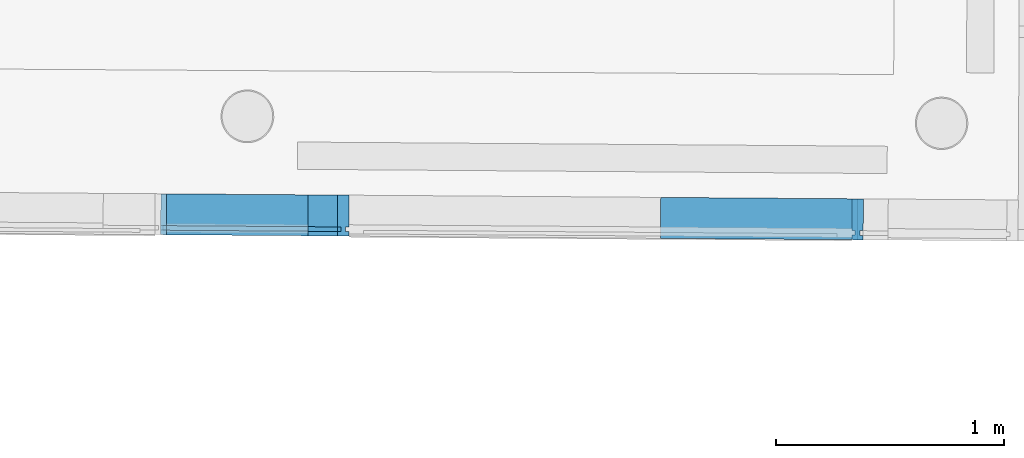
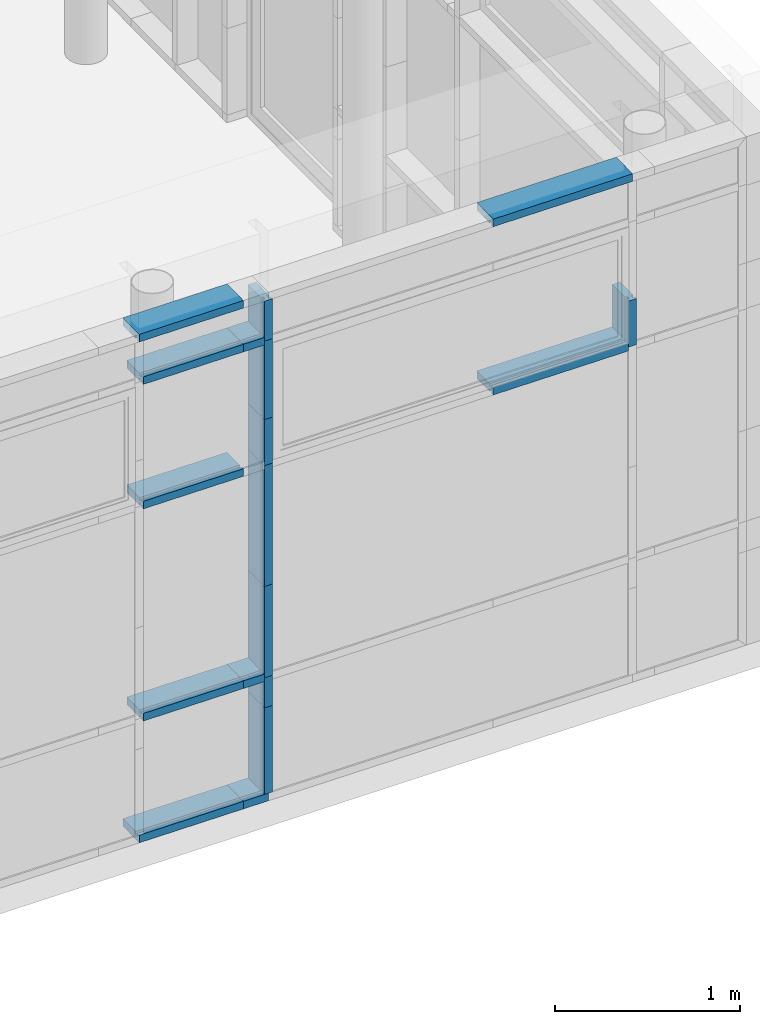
# One storey, part 174 of 196: 18 building element parts, 1 element without a shape of its own.
"""IFC2X3 building model written with IfcOpenShell, lengths in metres."""

from ifc_helpers import new_model, entity, si_unit, converted_unit, derived_unit, money_unit, direction, frame, origin_with_axes, place, context, subcontext, project, spatial, faceted_brep, material, type_object, element, aggregate, save


model = new_model("IFC2X3")

# Units and contexts
model_context = context("Model", 3, precision=1e-05, world=origin_with_axes(), true_north=direction((0.0, 1.0)))
body_context = subcontext(model_context, "Body", "Model", "MODEL_VIEW")
ifc_project = project(units=[si_unit("LENGTHUNIT", "METRE"), si_unit("AREAUNIT", "SQUARE_METRE"), si_unit("VOLUMEUNIT", "CUBIC_METRE"), converted_unit("PLANEANGLEUNIT", "DEGREE", entity("IfcPlaneAngleMeasure", 0.0174532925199), si_unit("PLANEANGLEUNIT", "RADIAN"), dimensions=[0, 0, 0, 0, 0, 0, 0]), money_unit("EUR"), converted_unit("TIMEUNIT", "Year", entity("IfcTimeMeasure", 31556926.0), si_unit("TIMEUNIT", "SECOND"), dimensions=[0, 0, 1, 0, 0, 0, 0]), si_unit("MASSUNIT", "GRAM", prefix="KILO"), si_unit("THERMODYNAMICTEMPERATUREUNIT", "DEGREE_CELSIUS"), si_unit("LUMINOUSINTENSITYUNIT", "LUMEN"), si_unit("ENERGYUNIT", "JOULE", prefix="MEGA"), derived_unit("THERMALCONDUCTANCEUNIT", [(si_unit("POWERUNIT", "WATT"), 1), (si_unit("LENGTHUNIT", "METRE"), -1), (si_unit("THERMODYNAMICTEMPERATUREUNIT", "KELVIN"), -1)]), derived_unit("SPECIFICHEATCAPACITYUNIT", [(si_unit("ENERGYUNIT", "JOULE"), 1), (si_unit("MASSUNIT", "GRAM", prefix="KILO"), -1), (si_unit("THERMODYNAMICTEMPERATUREUNIT", "KELVIN"), -1)]), derived_unit("MASSDENSITYUNIT", [(si_unit("MASSUNIT", "GRAM", prefix="KILO"), 1), (si_unit("VOLUMEUNIT", "CUBIC_METRE"), -1)])], contexts=[model_context])

# Site, building, storey
site_placement = place(None, origin_with_axes())
site = spatial("IfcSite", under=ifc_project, at=site_placement, Name="Gelände", CompositionType="ELEMENT")
building_placement = place(site_placement, origin_with_axes())
building = spatial("IfcBuilding", under=site, at=building_placement, Name="Gebäude", CompositionType="ELEMENT")
storey_placement = place(building_placement, frame((0.0, 0.0, -3.0), z_axis=(0.0, 0.0, 1.0), x_axis=(1.0, 0.0, 0.0)))
storey = spatial("IfcBuildingStorey", under=building, at=storey_placement, Name="KELLERGESCHOSS", CompositionType="ELEMENT", Elevation=-3.0)

# Proxy, building element parts
building_element_proxy_type = type_object("IfcBuildingElementProxyType", Name="Fassadentyp", PredefinedType="NOTDEFINED")
proxy_placement = place(storey_placement, frame((2.54090824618, 35.7894672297, 0.610000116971), z_axis=(0.0, 0.0, 1.0), x_axis=(1.0, 0.0, 0.0)))
proxy = element("IfcBuildingElementProxy", 1, at=proxy_placement, inside=storey, type_object=building_element_proxy_type, Name="Fassade-002")
ifc_material = material(Name="53_Metall, Aluminium")
building_element_part_1_placement = place(proxy_placement, origin_with_axes())
building_element_part_1 = element("IfcBuildingElementPart", 2, at=building_element_part_1_placement, material=ifc_material, Name="53_Metall, Aluminium", context=body_context, shape_type="Brep", body=[
    faceted_brep([(5.76495682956, -0.0317734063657, 2.51999988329), (5.77995643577, -0.0318820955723, 2.51999988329), (5.78097086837, 0.108114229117, 2.51999988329), (5.73097218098, 0.108476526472, 2.51999988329), (5.72995774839, -0.0315197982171, 2.51999988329), (5.7449573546, -0.0316284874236, 2.51999988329), (5.74481243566, -0.0516279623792, 2.51999988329), (5.72981282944, -0.0515192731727, 2.51999988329), (5.7296679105, -0.0715187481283, 2.51999988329), (5.77966659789, -0.0718810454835, 2.51999988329), (5.77981151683, -0.0518815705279, 2.51999988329), (5.76481191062, -0.0517728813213, 2.51999988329), (5.76495682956, -0.0317734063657, 2.21648768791), (5.77995643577, -0.0318820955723, 2.21648768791), (5.78097086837, 0.108114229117, 2.21648768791), (5.73097218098, 0.108476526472, 2.21648768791), (5.72995774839, -0.0315197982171, 2.21648768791), (5.7449573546, -0.0316284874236, 2.21648768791), (5.74481243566, -0.0516279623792, 2.21648768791), (5.72981282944, -0.0515192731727, 2.21648768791), (5.7296679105, -0.0715187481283, 2.21648768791), (5.77966659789, -0.0718810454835, 2.21648768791), (5.77981151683, -0.0518815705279, 2.21648768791), (5.76481191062, -0.0517728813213, 2.21648768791)], [[[0, 1, 2, 3, 4, 5, 6, 7, 8, 9, 10, 11]], [[1, 0, 12, 13]], [[1, 13, 14, 2]], [[3, 2, 14, 15]], [[4, 3, 15, 16]], [[4, 16, 17, 5]], [[5, 17, 18, 6]], [[7, 6, 18, 19]], [[19, 20, 8, 7]], [[9, 8, 20, 21]], [[22, 10, 9, 21]], [[11, 10, 22, 23]], [[0, 11, 23, 12]], [[23, 22, 21, 20, 19, 18, 17, 16, 15, 14, 13, 12]]]),
])
building_element_part_2_placement = place(proxy_placement, origin_with_axes())
building_element_part_2 = element("IfcBuildingElementPart", 3, at=building_element_part_2_placement, material=ifc_material, Name="53_Metall, Aluminium", context=body_context, shape_type="Brep", body=[
    faceted_brep([(5.75495709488, -0.031700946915, 3.31499994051), (5.75495709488, -0.031700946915, 3.29999994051), (5.75597152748, 0.108295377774, 3.29999994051), (5.75597152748, 0.108295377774, 3.34999994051), (5.754667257, -0.0716998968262, 3.34999994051), (5.754667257, -0.0716998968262, 3.29999994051), (5.75481217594, -0.0517004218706, 3.29999994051), (5.75481217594, -0.0517004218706, 3.31499994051), (4.88922474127, -0.0254277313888, 3.31499994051), (4.88922474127, -0.0254277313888, 3.29999994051), (4.89023917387, 0.114568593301, 3.29999994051), (4.89023917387, 0.114568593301, 3.34999994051), (4.88893490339, -0.0654266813, 3.34999994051), (4.88893490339, -0.0654266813, 3.29999994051), (4.88907982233, -0.0454272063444, 3.29999994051), (4.88907982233, -0.0454272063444, 3.31499994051)], [[[0, 1, 2, 3, 4, 5, 6, 7]], [[0, 8, 9, 1]], [[9, 10, 2, 1]], [[10, 11, 3, 2]], [[11, 12, 4, 3]], [[12, 13, 5, 4]], [[6, 5, 13, 14]], [[14, 15, 7, 6]], [[7, 15, 8, 0]], [[8, 15, 14, 13, 12, 11, 10, 9]]]),
])
building_element_part_3_placement = place(proxy_placement, origin_with_axes())
building_element_part_3 = element("IfcBuildingElementPart", 4, at=building_element_part_3_placement, material=ifc_material, Name="53_Metall, Aluminium", context=body_context, shape_type="Brep", body=[
    faceted_brep([(3.50453153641, -0.0153940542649, 2.51999988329), (3.51953114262, -0.0155027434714, 2.51999988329), (3.52054557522, 0.124493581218, 2.51999988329), (3.47054688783, 0.124855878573, 2.51999988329), (3.46953245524, -0.0151404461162, 2.51999988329), (3.48453206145, -0.0152491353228, 2.51999988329), (3.48438714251, -0.0352486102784, 2.51999988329), (3.46938753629, -0.0351399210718, 2.51999988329), (3.46924261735, -0.0551393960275, 2.51999988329), (3.51924130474, -0.0555016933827, 2.51999988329), (3.51938622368, -0.035502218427, 2.51999988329), (3.50438661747, -0.0353935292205, 2.51999988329), (3.50453153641, -0.0153940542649, 2.21648768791), (3.51953114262, -0.0155027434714, 2.21648768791), (3.52054557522, 0.124493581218, 2.21648768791), (3.47054688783, 0.124855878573, 2.21648768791), (3.46953245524, -0.0151404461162, 2.21648768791), (3.48453206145, -0.0152491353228, 2.21648768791), (3.48438714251, -0.0352486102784, 2.21648768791), (3.46938753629, -0.0351399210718, 2.21648768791), (3.46924261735, -0.0551393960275, 2.21648768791), (3.51924130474, -0.0555016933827, 2.21648768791), (3.51938622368, -0.035502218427, 2.21648768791), (3.50438661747, -0.0353935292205, 2.21648768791)], [[[0, 1, 2, 3, 4, 5, 6, 7, 8, 9, 10, 11]], [[1, 0, 12, 13]], [[1, 13, 14, 2]], [[3, 2, 14, 15]], [[4, 3, 15, 16]], [[4, 16, 17, 5]], [[5, 17, 18, 6]], [[7, 6, 18, 19]], [[19, 20, 8, 7]], [[9, 8, 20, 21]], [[22, 10, 9, 21]], [[11, 10, 22, 23]], [[0, 11, 23, 12]], [[23, 22, 21, 20, 19, 18, 17, 16, 15, 14, 13, 12]]]),
])
building_element_part_4_placement = place(proxy_placement, origin_with_axes())
building_element_part_4 = element("IfcBuildingElementPart", 5, at=building_element_part_4_placement, material=ifc_material, Name="53_Metall, Aluminium", context=body_context, shape_type="Brep", body=[
    faceted_brep([(3.50453153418, -0.0153940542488, 2.21648768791), (3.5195311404, -0.0155027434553, 2.21648768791), (3.520545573, 0.124493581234, 2.21648768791), (3.47054688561, 0.124855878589, 2.21648768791), (3.46953245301, -0.0151404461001, 2.21648768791), (3.48453205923, -0.0152491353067, 2.21648768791), (3.48438714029, -0.0352486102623, 2.21648768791), (3.46938753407, -0.0351399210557, 2.21648768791), (3.46924261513, -0.0551393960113, 2.21648768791), (3.51924130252, -0.0555016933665, 2.21648768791), (3.51938622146, -0.0355022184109, 2.21648768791), (3.50438661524, -0.0353935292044, 2.21648768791), (3.50453153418, -0.0153940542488, 1.41999988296), (3.5195311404, -0.0155027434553, 1.41999988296), (3.520545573, 0.124493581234, 1.41999988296), (3.47054688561, 0.124855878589, 1.41999988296), (3.46953245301, -0.0151404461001, 1.41999988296), (3.48453205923, -0.0152491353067, 1.41999988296), (3.48438714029, -0.0352486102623, 1.41999988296), (3.46938753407, -0.0351399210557, 1.41999988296), (3.46924261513, -0.0551393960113, 1.41999988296), (3.51924130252, -0.0555016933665, 1.41999988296), (3.51938622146, -0.0355022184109, 1.41999988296), (3.50438661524, -0.0353935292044, 1.41999988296)], [[[0, 1, 2, 3, 4, 5, 6, 7, 8, 9, 10, 11]], [[1, 0, 12, 13]], [[1, 13, 14, 2]], [[3, 2, 14, 15]], [[4, 3, 15, 16]], [[4, 16, 17, 5]], [[5, 17, 18, 6]], [[7, 6, 18, 19]], [[19, 20, 8, 7]], [[9, 8, 20, 21]], [[22, 10, 9, 21]], [[11, 10, 22, 23]], [[0, 11, 23, 12]], [[23, 22, 21, 20, 19, 18, 17, 16, 15, 14, 13, 12]]]),
])
building_element_part_5_placement = place(proxy_placement, origin_with_axes())
building_element_part_5 = element("IfcBuildingElementPart", 6, at=building_element_part_5_placement, material=ifc_material, Name="53_Metall, Aluminium", context=body_context, shape_type="Brep", body=[
    faceted_brep([(3.33926543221, -0.0141965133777, 2.20648768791), (3.33926543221, -0.0141965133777, 2.19148768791), (3.34027986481, 0.125799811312, 2.19148768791), (3.34027986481, 0.125799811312, 2.24148768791), (3.33926543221, -0.0141965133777, 2.24148768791), (3.33926543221, -0.0141965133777, 2.22648768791), (3.33912051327, -0.0341959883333, 2.22648768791), (3.33912051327, -0.0341959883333, 2.24148768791), (3.33897559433, -0.0541954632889, 2.24148768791), (3.33897559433, -0.0541954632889, 2.19148768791), (3.33912051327, -0.0341959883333, 2.19148768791), (3.33912051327, -0.0341959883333, 2.20648768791), (2.71722601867, -0.0096891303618, 2.20648768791), (2.71722601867, -0.0096891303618, 2.19148768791), (2.71824045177, 0.130307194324, 2.19148768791), (2.71824045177, 0.130307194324, 2.24148768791), (2.71722601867, -0.0096891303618, 2.24148768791), (2.71722601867, -0.0096891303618, 2.22648768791), (2.71708109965, -0.0296886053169, 2.22648768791), (2.71708109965, -0.0296886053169, 2.24148768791), (2.71693618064, -0.049688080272, 2.24148768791), (2.71693618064, -0.049688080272, 2.19148768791), (2.71708109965, -0.0296886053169, 2.19148768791), (2.71708109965, -0.0296886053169, 2.20648768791)], [[[0, 1, 2, 3, 4, 5, 6, 7, 8, 9, 10, 11]], [[1, 0, 12, 13]], [[1, 13, 14, 2]], [[2, 14, 15, 3]], [[4, 3, 15, 16]], [[4, 16, 17, 5]], [[5, 17, 18, 6]], [[7, 6, 18, 19]], [[19, 20, 8, 7]], [[8, 20, 21, 9]], [[22, 10, 9, 21]], [[11, 10, 22, 23]], [[0, 11, 23, 12]], [[23, 22, 21, 20, 19, 18, 17, 16, 15, 14, 13, 12]]]),
])
building_element_part_6_placement = place(proxy_placement, origin_with_axes())
building_element_part_6 = element("IfcBuildingElementPart", 7, at=building_element_part_6_placement, material=ifc_material, Name="53_Metall, Aluminium", context=body_context, shape_type="Brep", body=[
    faceted_brep([(5.72995774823, -0.0315197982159, 2.20648767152), (5.72995774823, -0.0315197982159, 2.19148767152), (5.73097217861, 0.108476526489, 2.19148767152), (5.73097217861, 0.108476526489, 2.24148767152), (5.72995774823, -0.0315197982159, 2.24148767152), (5.72995774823, -0.0315197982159, 2.22648767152), (5.7298128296, -0.0515192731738, 2.22648767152), (5.7298128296, -0.0515192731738, 2.24148767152), (5.72966791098, -0.0715187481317, 2.24148767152), (5.72966791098, -0.0715187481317, 2.19148767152), (5.7298128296, -0.0515192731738, 2.19148767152), (5.7298128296, -0.0515192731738, 2.20648767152), (4.88922474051, -0.0254277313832, 2.20648767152), (4.88922474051, -0.0254277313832, 2.19148767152), (4.8902391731, 0.114568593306, 2.19148767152), (4.8902391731, 0.114568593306, 2.24148767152), (4.88922474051, -0.0254277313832, 2.24148767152), (4.88922474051, -0.0254277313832, 2.22648767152), (4.88907982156, -0.0454272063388, 2.22648767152), (4.88907982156, -0.0454272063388, 2.24148767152), (4.88893490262, -0.0654266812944, 2.24148767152), (4.88893490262, -0.0654266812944, 2.19148767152), (4.88907982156, -0.0454272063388, 2.19148767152), (4.88907982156, -0.0454272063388, 2.20648767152)], [[[0, 1, 2, 3, 4, 5, 6, 7, 8, 9, 10, 11]], [[1, 0, 12, 13]], [[1, 13, 14, 2]], [[3, 2, 14, 15]], [[4, 3, 15, 16]], [[4, 16, 17, 5]], [[5, 17, 18, 6]], [[7, 6, 18, 19]], [[19, 20, 8, 7]], [[9, 8, 20, 21]], [[22, 10, 9, 21]], [[11, 10, 22, 23]], [[0, 11, 23, 12]], [[23, 22, 21, 20, 19, 18, 17, 16, 15, 14, 13, 12]]]),
])
building_element_part_7_placement = place(proxy_placement, origin_with_axes())
building_element_part_7 = element("IfcBuildingElementPart", 8, at=building_element_part_7_placement, material=ifc_material, Name="53_Metall, Aluminium", context=body_context, shape_type="Brep", body=[
    faceted_brep([(3.50453153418, -0.0153940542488, 1.4199998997), (3.5195311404, -0.0155027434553, 1.4199998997), (3.520545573, 0.124493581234, 1.4199998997), (3.47054688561, 0.124855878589, 1.4199998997), (3.46953245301, -0.0151404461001, 1.4199998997), (3.48453205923, -0.0152491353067, 1.4199998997), (3.48438714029, -0.0352486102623, 1.4199998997), (3.46938753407, -0.0351399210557, 1.4199998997), (3.46924261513, -0.0551393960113, 1.4199998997), (3.51924130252, -0.0555016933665, 1.4199998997), (3.51938622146, -0.0355022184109, 1.4199998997), (3.50438661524, -0.0353935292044, 1.4199998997), (3.50453153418, -0.0153940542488, 0.818463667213), (3.5195311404, -0.0155027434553, 0.818463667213), (3.520545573, 0.124493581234, 0.818463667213), (3.47054688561, 0.124855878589, 0.818463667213), (3.46953245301, -0.0151404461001, 0.818463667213), (3.48453205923, -0.0152491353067, 0.818463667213), (3.48438714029, -0.0352486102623, 0.818463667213), (3.46938753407, -0.0351399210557, 0.818463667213), (3.46924261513, -0.0551393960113, 0.818463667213), (3.51924130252, -0.0555016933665, 0.818463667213), (3.51938622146, -0.0355022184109, 0.818463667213), (3.50438661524, -0.0353935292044, 0.818463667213)], [[[0, 1, 2, 3, 4, 5, 6, 7, 8, 9, 10, 11]], [[1, 0, 12, 13]], [[1, 13, 14, 2]], [[3, 2, 14, 15]], [[4, 3, 15, 16]], [[4, 16, 17, 5]], [[5, 17, 18, 6]], [[7, 6, 18, 19]], [[19, 20, 8, 7]], [[9, 8, 20, 21]], [[22, 10, 9, 21]], [[11, 10, 22, 23]], [[0, 11, 23, 12]], [[23, 22, 21, 20, 19, 18, 17, 16, 15, 14, 13, 12]]]),
])
building_element_part_8_placement = place(proxy_placement, origin_with_axes())
building_element_part_8 = element("IfcBuildingElementPart", 9, at=building_element_part_8_placement, material=ifc_material, Name="53_Metall, Aluminium", context=body_context, shape_type="Brep", body=[
    faceted_brep([(3.33926543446, -0.014196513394, 0.0349998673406), (3.33912051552, -0.0341959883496, 0.0349998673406), (3.33912051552, -0.0341959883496, 0.0499998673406), (3.33897559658, -0.0541954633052, 0.0499998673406), (3.33897559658, -0.0541954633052, -1.32659449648e-07), (3.34027986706, 0.125799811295, -1.32659449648e-07), (3.34027986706, 0.125799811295, 0.0499998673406), (3.33926543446, -0.014196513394, 0.0499998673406), (2.69222667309, -0.00950798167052, 0.0349998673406), (2.69208175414, -0.0295074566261, 0.0349998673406), (2.69208175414, -0.0295074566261, 0.0499998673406), (2.6919368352, -0.0495069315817, 0.0499998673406), (2.6919368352, -0.0495069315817, -1.32659449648e-07), (2.69324110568, 0.130488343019, -1.32659449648e-07), (2.69324110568, 0.130488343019, 0.0499998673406), (2.69222667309, -0.00950798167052, 0.0499998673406)], [[[0, 1, 2, 3, 4, 5, 6, 7]], [[1, 0, 8, 9]], [[10, 2, 1, 9]], [[2, 10, 11, 3]], [[12, 4, 3, 11]], [[13, 5, 4, 12]], [[14, 6, 5, 13]], [[15, 7, 6, 14]], [[0, 7, 15, 8]], [[8, 15, 14, 13, 12, 11, 10, 9]]]),
])
building_element_part_9_placement = place(proxy_placement, origin_with_axes())
building_element_part_9 = element("IfcBuildingElementPart", 10, at=building_element_part_9_placement, material=ifc_material, Name="53_Metall, Aluminium", context=body_context, shape_type="Brep", body=[
    faceted_brep([(3.33926543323, -0.0141965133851, 3.02649576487), (3.33926543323, -0.0141965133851, 3.01149576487), (3.34027986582, 0.125799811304, 3.01149576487), (3.34027986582, 0.125799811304, 3.06149576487), (3.33926543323, -0.0141965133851, 3.06149576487), (3.33926543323, -0.0141965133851, 3.04649576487), (3.33912051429, -0.0341959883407, 3.04649576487), (3.33912051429, -0.0341959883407, 3.06149576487), (3.33897559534, -0.0541954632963, 3.06149576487), (3.33897559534, -0.0541954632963, 3.01149576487), (3.33912051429, -0.0341959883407, 3.01149576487), (3.33912051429, -0.0341959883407, 3.02649576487), (2.71722601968, -0.00968913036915, 3.02649576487), (2.71722601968, -0.00968913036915, 3.01149576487), (2.71824045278, 0.130307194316, 3.01149576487), (2.71824045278, 0.130307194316, 3.06149576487), (2.71722601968, -0.00968913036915, 3.06149576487), (2.71722601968, -0.00968913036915, 3.04649576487), (2.71708110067, -0.0296886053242, 3.04649576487), (2.71708110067, -0.0296886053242, 3.06149576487), (2.71693618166, -0.0496880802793, 3.06149576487), (2.71693618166, -0.0496880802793, 3.01149576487), (2.71708110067, -0.0296886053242, 3.01149576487), (2.71708110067, -0.0296886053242, 3.02649576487)], [[[0, 1, 2, 3, 4, 5, 6, 7, 8, 9, 10, 11]], [[1, 0, 12, 13]], [[1, 13, 14, 2]], [[2, 14, 15, 3]], [[4, 3, 15, 16]], [[4, 16, 17, 5]], [[5, 17, 18, 6]], [[7, 6, 18, 19]], [[19, 20, 8, 7]], [[8, 20, 21, 9]], [[22, 10, 9, 21]], [[11, 10, 22, 23]], [[0, 11, 23, 12]], [[23, 22, 21, 20, 19, 18, 17, 16, 15, 14, 13, 12]]]),
])
building_element_part_10_placement = place(proxy_placement, origin_with_axes())
building_element_part_10 = element("IfcBuildingElementPart", 11, at=building_element_part_10_placement, material=ifc_material, Name="53_Metall, Aluminium", context=body_context, shape_type="Brep", body=[
    faceted_brep([(3.49453179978, -0.0153215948, 0.0349999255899), (3.49438688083, -0.0353210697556, 0.0349999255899), (3.49438688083, -0.0353210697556, 0.0499999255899), (3.49424196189, -0.0553205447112, 0.0499999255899), (3.49424196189, -0.0553205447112, -7.44101367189e-08), (3.49554623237, 0.124674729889, -7.44101367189e-08), (3.49554623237, 0.124674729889, 0.0499999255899), (3.49453179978, -0.0153215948, 0.0499999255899), (3.33926542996, -0.0141965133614, 0.0349999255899), (3.33912051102, -0.034195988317, 0.0349999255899), (3.33912051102, -0.034195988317, 0.0499999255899), (3.33897559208, -0.0541954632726, 0.0499999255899), (3.33897559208, -0.0541954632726, -7.44101367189e-08), (3.34027986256, 0.125799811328, -7.44101367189e-08), (3.34027986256, 0.125799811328, 0.0499999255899), (3.33926542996, -0.0141965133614, 0.0499999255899)], [[[0, 1, 2, 3, 4, 5, 6, 7]], [[1, 0, 8, 9]], [[10, 2, 1, 9]], [[2, 10, 11, 3]], [[12, 4, 3, 11]], [[13, 5, 4, 12]], [[14, 6, 5, 13]], [[15, 7, 6, 14]], [[0, 7, 15, 8]], [[8, 15, 14, 13, 12, 11, 10, 9]]]),
])
building_element_part_11_placement = place(proxy_placement, origin_with_axes())
building_element_part_11 = element("IfcBuildingElementPart", 12, at=building_element_part_11_placement, material=ifc_material, Name="53_Metall, Aluminium", context=body_context, shape_type="Brep", body=[
    faceted_brep([(3.50453153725, -0.015394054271, 0.619999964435), (3.51953114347, -0.0155027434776, 0.619999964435), (3.52054557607, 0.124493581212, 0.619999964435), (3.47054688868, 0.124855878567, 0.619999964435), (3.46953245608, -0.0151404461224, 0.619999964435), (3.4845320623, -0.0152491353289, 0.619999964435), (3.48438714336, -0.0352486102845, 0.619999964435), (3.46938753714, -0.035139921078, 0.619999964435), (3.4692426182, -0.0551393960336, 0.619999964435), (3.51924130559, -0.0555016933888, 0.619999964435), (3.51938622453, -0.0355022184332, 0.619999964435), (3.50438661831, -0.0353935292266, 0.619999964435), (3.50453153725, -0.015394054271, 0.0499999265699), (3.51953114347, -0.0155027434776, 0.0499999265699), (3.52054557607, 0.124493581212, 0.0499999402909), (3.47054688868, 0.124855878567, 0.0499999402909), (3.46953245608, -0.0151404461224, 0.0499999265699), (3.4845320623, -0.0152491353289, 0.0499999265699), (3.48438714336, -0.0352486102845, 0.0499999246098), (3.46938753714, -0.035139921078, 0.0499999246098), (3.4692426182, -0.0551393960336, 0.0499999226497), (3.51924130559, -0.0555016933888, 0.0499999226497), (3.51938622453, -0.0355022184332, 0.0499999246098), (3.50438661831, -0.0353935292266, 0.0499999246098)], [[[0, 1, 2, 3, 4, 5, 6, 7, 8, 9, 10, 11]], [[1, 0, 12, 13]], [[1, 13, 14, 2]], [[2, 14, 15, 3]], [[4, 3, 15, 16]], [[4, 16, 17, 5]], [[5, 17, 18, 6]], [[7, 6, 18, 19]], [[19, 20, 8, 7]], [[8, 20, 21, 9]], [[22, 10, 9, 21]], [[11, 10, 22, 23]], [[0, 11, 23, 12]], [[23, 22, 21, 20, 19, 18, 17, 16, 15, 14, 13, 12]]]),
])
building_element_part_12_placement = place(proxy_placement, origin_with_axes())
building_element_part_12 = element("IfcBuildingElementPart", 13, at=building_element_part_12_placement, material=ifc_material, Name="53_Metall, Aluminium", context=body_context, shape_type="Brep", body=[
    faceted_brep([(3.50453153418, -0.0153940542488, 0.818463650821), (3.5195311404, -0.0155027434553, 0.818463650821), (3.520545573, 0.124493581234, 0.818463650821), (3.47054688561, 0.124855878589, 0.818463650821), (3.46953245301, -0.0151404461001, 0.818463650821), (3.48453205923, -0.0152491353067, 0.818463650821), (3.48438714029, -0.0352486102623, 0.818463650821), (3.46938753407, -0.0351399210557, 0.818463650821), (3.46924261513, -0.0551393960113, 0.818463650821), (3.51924130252, -0.0555016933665, 0.818463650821), (3.51938622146, -0.0355022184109, 0.818463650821), (3.50438661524, -0.0353935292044, 0.818463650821), (3.50453153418, -0.0153940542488, 0.619999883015), (3.5195311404, -0.0155027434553, 0.619999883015), (3.520545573, 0.124493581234, 0.619999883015), (3.47054688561, 0.124855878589, 0.619999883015), (3.46953245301, -0.0151404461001, 0.619999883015), (3.48453205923, -0.0152491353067, 0.619999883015), (3.48438714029, -0.0352486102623, 0.619999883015), (3.46938753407, -0.0351399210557, 0.619999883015), (3.46924261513, -0.0551393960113, 0.619999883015), (3.51924130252, -0.0555016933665, 0.619999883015), (3.51938622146, -0.0355022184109, 0.619999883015), (3.50438661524, -0.0353935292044, 0.619999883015)], [[[0, 1, 2, 3, 4, 5, 6, 7, 8, 9, 10, 11]], [[1, 0, 12, 13]], [[1, 13, 14, 2]], [[3, 2, 14, 15]], [[4, 3, 15, 16]], [[4, 16, 17, 5]], [[5, 17, 18, 6]], [[7, 6, 18, 19]], [[19, 20, 8, 7]], [[9, 8, 20, 21]], [[22, 10, 9, 21]], [[11, 10, 22, 23]], [[0, 11, 23, 12]], [[23, 22, 21, 20, 19, 18, 17, 16, 15, 14, 13, 12]]]),
])
building_element_part_13_placement = place(proxy_placement, origin_with_axes())
building_element_part_13 = element("IfcBuildingElementPart", 14, at=building_element_part_13_placement, material=ifc_material, Name="53_Metall, Aluminium", context=body_context, shape_type="Brep", body=[
    faceted_brep([(3.46953245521, -0.015140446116, 0.808463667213), (3.46953245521, -0.015140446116, 0.793463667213), (3.47054688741, 0.124855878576, 0.793463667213), (3.47054688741, 0.124855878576, 0.843463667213), (3.46953245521, -0.015140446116, 0.843463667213), (3.46953245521, -0.015140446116, 0.828463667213), (3.46938753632, -0.035139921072, 0.828463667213), (3.46938753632, -0.035139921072, 0.843463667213), (3.46924261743, -0.0551393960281, 0.843463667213), (3.46924261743, -0.0551393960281, 0.793463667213), (3.46938753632, -0.035139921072, 0.793463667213), (3.46938753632, -0.035139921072, 0.808463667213), (3.33926543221, -0.0141965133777, 0.808463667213), (3.33926543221, -0.0141965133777, 0.793463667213), (3.34027986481, 0.125799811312, 0.793463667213), (3.34027986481, 0.125799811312, 0.843463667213), (3.33926543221, -0.0141965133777, 0.843463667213), (3.33926543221, -0.0141965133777, 0.828463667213), (3.33912051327, -0.0341959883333, 0.828463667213), (3.33912051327, -0.0341959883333, 0.843463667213), (3.33897559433, -0.0541954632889, 0.843463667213), (3.33897559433, -0.0541954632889, 0.793463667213), (3.33912051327, -0.0341959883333, 0.793463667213), (3.33912051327, -0.0341959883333, 0.808463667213)], [[[0, 1, 2, 3, 4, 5, 6, 7, 8, 9, 10, 11]], [[1, 0, 12, 13]], [[1, 13, 14, 2]], [[3, 2, 14, 15]], [[4, 3, 15, 16]], [[4, 16, 17, 5]], [[5, 17, 18, 6]], [[7, 6, 18, 19]], [[19, 20, 8, 7]], [[9, 8, 20, 21]], [[22, 10, 9, 21]], [[11, 10, 22, 23]], [[0, 11, 23, 12]], [[23, 22, 21, 20, 19, 18, 17, 16, 15, 14, 13, 12]]]),
])
building_element_part_14_placement = place(proxy_placement, origin_with_axes())
building_element_part_14 = element("IfcBuildingElementPart", 15, at=building_element_part_14_placement, material=ifc_material, Name="53_Metall, Aluminium", context=body_context, shape_type="Brep", body=[
    faceted_brep([(3.33926543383, -0.0141965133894, 0.808463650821), (3.33926543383, -0.0141965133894, 0.793463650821), (3.34027986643, 0.1257998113, 0.793463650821), (3.34027986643, 0.1257998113, 0.843463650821), (3.33926543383, -0.0141965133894, 0.843463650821), (3.33926543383, -0.0141965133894, 0.828463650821), (3.33912051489, -0.034195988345, 0.828463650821), (3.33912051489, -0.034195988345, 0.843463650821), (3.33897559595, -0.0541954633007, 0.843463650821), (3.33897559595, -0.0541954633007, 0.793463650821), (3.33912051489, -0.034195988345, 0.793463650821), (3.33912051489, -0.034195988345, 0.808463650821), (2.71722602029, -0.00968913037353, 0.808463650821), (2.71722602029, -0.00968913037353, 0.793463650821), (2.71824045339, 0.130307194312, 0.793463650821), (2.71824045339, 0.130307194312, 0.843463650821), (2.71722602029, -0.00968913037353, 0.843463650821), (2.71722602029, -0.00968913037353, 0.828463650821), (2.71708110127, -0.0296886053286, 0.828463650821), (2.71708110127, -0.0296886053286, 0.843463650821), (2.71693618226, -0.0496880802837, 0.843463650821), (2.71693618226, -0.0496880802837, 0.793463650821), (2.71708110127, -0.0296886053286, 0.793463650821), (2.71708110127, -0.0296886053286, 0.808463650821)], [[[0, 1, 2, 3, 4, 5, 6, 7, 8, 9, 10, 11]], [[1, 0, 12, 13]], [[1, 13, 14, 2]], [[2, 14, 15, 3]], [[4, 3, 15, 16]], [[4, 16, 17, 5]], [[5, 17, 18, 6]], [[7, 6, 18, 19]], [[19, 20, 8, 7]], [[8, 20, 21, 9]], [[22, 10, 9, 21]], [[11, 10, 22, 23]], [[0, 11, 23, 12]], [[23, 22, 21, 20, 19, 18, 17, 16, 15, 14, 13, 12]]]),
])
building_element_part_15_placement = place(proxy_placement, origin_with_axes())
building_element_part_15 = element("IfcBuildingElementPart", 16, at=building_element_part_15_placement, material=ifc_material, Name="53_Metall, Aluminium", context=body_context, shape_type="Brep", body=[
    faceted_brep([(3.33926543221, -0.0141965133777, 3.31499994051), (3.33926543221, -0.0141965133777, 3.29999994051), (3.34027986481, 0.125799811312, 3.29999994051), (3.34027986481, 0.125799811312, 3.34999994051), (3.33897559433, -0.0541954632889, 3.34999994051), (3.33897559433, -0.0541954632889, 3.29999994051), (3.33912051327, -0.0341959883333, 3.29999994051), (3.33912051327, -0.0341959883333, 3.31499994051), (2.69222667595, -0.0095079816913, 3.31499994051), (2.69222667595, -0.0095079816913, 3.29999994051), (2.69324110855, 0.130488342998, 3.29999994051), (2.69324110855, 0.130488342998, 3.34999994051), (2.69193683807, -0.0495069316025, 3.34999994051), (2.69193683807, -0.0495069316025, 3.29999994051), (2.69208175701, -0.0295074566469, 3.29999994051), (2.69208175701, -0.0295074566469, 3.31499994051)], [[[0, 1, 2, 3, 4, 5, 6, 7]], [[0, 8, 9, 1]], [[9, 10, 2, 1]], [[10, 11, 3, 2]], [[11, 12, 4, 3]], [[12, 13, 5, 4]], [[6, 5, 13, 14]], [[14, 15, 7, 6]], [[7, 15, 8, 0]], [[8, 15, 14, 13, 12, 11, 10, 9]]]),
])
building_element_part_16_placement = place(proxy_placement, origin_with_axes())
building_element_part_16 = element("IfcBuildingElementPart", 17, at=building_element_part_16_placement, material=ifc_material, Name="53_Metall, Aluminium", context=body_context, shape_type="Brep", body=[
    faceted_brep([(3.46953245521, -0.015140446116, 3.02649576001), (3.46953245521, -0.015140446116, 3.01149576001), (3.47054688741, 0.124855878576, 3.01149576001), (3.47054688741, 0.124855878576, 3.06149576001), (3.46953245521, -0.015140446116, 3.06149576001), (3.46953245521, -0.015140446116, 3.04649576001), (3.46938753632, -0.035139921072, 3.04649576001), (3.46938753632, -0.035139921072, 3.06149576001), (3.46924261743, -0.0551393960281, 3.06149576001), (3.46924261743, -0.0551393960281, 3.01149576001), (3.46938753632, -0.035139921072, 3.01149576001), (3.46938753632, -0.035139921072, 3.02649576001), (3.33926543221, -0.0141965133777, 3.02649576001), (3.33926543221, -0.0141965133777, 3.01149576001), (3.34027986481, 0.125799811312, 3.01149576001), (3.34027986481, 0.125799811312, 3.06149576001), (3.33926543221, -0.0141965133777, 3.06149576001), (3.33926543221, -0.0141965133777, 3.04649576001), (3.33912051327, -0.0341959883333, 3.04649576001), (3.33912051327, -0.0341959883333, 3.06149576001), (3.33897559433, -0.0541954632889, 3.06149576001), (3.33897559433, -0.0541954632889, 3.01149576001), (3.33912051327, -0.0341959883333, 3.01149576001), (3.33912051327, -0.0341959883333, 3.02649576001)], [[[0, 1, 2, 3, 4, 5, 6, 7, 8, 9, 10, 11]], [[1, 0, 12, 13]], [[1, 13, 14, 2]], [[3, 2, 14, 15]], [[4, 3, 15, 16]], [[4, 16, 17, 5]], [[5, 17, 18, 6]], [[7, 6, 18, 19]], [[19, 20, 8, 7]], [[9, 8, 20, 21]], [[22, 10, 9, 21]], [[11, 10, 22, 23]], [[0, 11, 23, 12]], [[23, 22, 21, 20, 19, 18, 17, 16, 15, 14, 13, 12]]]),
])
building_element_part_17_placement = place(proxy_placement, origin_with_axes())
building_element_part_17 = element("IfcBuildingElementPart", 18, at=building_element_part_17_placement, material=ifc_material, Name="53_Metall, Aluminium", context=body_context, shape_type="Brep", body=[
    faceted_brep([(3.50453154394, -0.0153940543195, 3.29999993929), (3.51953115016, -0.015502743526, 3.29999993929), (3.52054558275, 0.124493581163, 3.29999993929), (3.47054689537, 0.124855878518, 3.29999993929), (3.46953246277, -0.0151404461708, 3.29999993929), (3.48453206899, -0.0152491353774, 3.29999993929), (3.48438715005, -0.035248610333, 3.29999993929), (3.46938754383, -0.0351399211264, 3.29999993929), (3.46924262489, -0.0551393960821, 3.29999993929), (3.51924131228, -0.0555016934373, 3.29999993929), (3.51938623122, -0.0355022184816, 3.29999993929), (3.504386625, -0.0353935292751, 3.29999993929), (3.50453154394, -0.0153940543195, 3.03649575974), (3.51953115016, -0.015502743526, 3.03649575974), (3.52054558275, 0.124493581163, 3.03649575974), (3.47054689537, 0.124855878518, 3.03649575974), (3.46953246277, -0.0151404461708, 3.03649575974), (3.48453206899, -0.0152491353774, 3.03649575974), (3.48438715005, -0.035248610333, 3.03649575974), (3.46938754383, -0.0351399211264, 3.03649575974), (3.46924262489, -0.0551393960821, 3.03649575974), (3.51924131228, -0.0555016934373, 3.03649575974), (3.51938623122, -0.0355022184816, 3.03649575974), (3.504386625, -0.0353935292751, 3.03649575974)], [[[0, 1, 2, 3, 4, 5, 6, 7, 8, 9, 10, 11]], [[1, 0, 12, 13]], [[1, 13, 14, 2]], [[3, 2, 14, 15]], [[4, 3, 15, 16]], [[4, 16, 17, 5]], [[5, 17, 18, 6]], [[7, 6, 18, 19]], [[19, 20, 8, 7]], [[9, 8, 20, 21]], [[22, 10, 9, 21]], [[11, 10, 22, 23]], [[0, 11, 23, 12]], [[23, 22, 21, 20, 19, 18, 17, 16, 15, 14, 13, 12]]]),
])
building_element_part_18_placement = place(proxy_placement, origin_with_axes())
building_element_part_18 = element("IfcBuildingElementPart", 19, at=building_element_part_18_placement, material=ifc_material, Name="53_Metall, Aluminium", context=body_context, shape_type="Brep", body=[
    faceted_brep([(3.50453153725, -0.015394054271, 3.03649576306), (3.51953114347, -0.0155027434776, 3.03649576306), (3.52054557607, 0.124493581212, 3.03649576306), (3.47054688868, 0.124855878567, 3.03649576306), (3.46953245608, -0.0151404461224, 3.03649576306), (3.4845320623, -0.0152491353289, 3.03649576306), (3.48438714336, -0.0352486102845, 3.03649576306), (3.46938753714, -0.035139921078, 3.03649576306), (3.4692426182, -0.0551393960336, 3.03649576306), (3.51924130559, -0.0555016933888, 3.03649576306), (3.51938622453, -0.0355022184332, 3.03649576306), (3.50438661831, -0.0353935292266, 3.03649576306), (3.50453153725, -0.015394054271, 2.51999988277), (3.51953114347, -0.0155027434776, 2.51999988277), (3.52054557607, 0.124493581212, 2.51999988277), (3.47054688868, 0.124855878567, 2.51999988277), (3.46953245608, -0.0151404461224, 2.51999988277), (3.4845320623, -0.0152491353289, 2.51999988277), (3.48438714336, -0.0352486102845, 2.51999988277), (3.46938753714, -0.035139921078, 2.51999988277), (3.4692426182, -0.0551393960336, 2.51999988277), (3.51924130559, -0.0555016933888, 2.51999988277), (3.51938622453, -0.0355022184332, 2.51999988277), (3.50438661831, -0.0353935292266, 2.51999988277)], [[[0, 1, 2, 3, 4, 5, 6, 7, 8, 9, 10, 11]], [[1, 0, 12, 13]], [[1, 13, 14, 2]], [[3, 2, 14, 15]], [[4, 3, 15, 16]], [[4, 16, 17, 5]], [[5, 17, 18, 6]], [[7, 6, 18, 19]], [[19, 20, 8, 7]], [[9, 8, 20, 21]], [[22, 10, 9, 21]], [[11, 10, 22, 23]], [[0, 11, 23, 12]], [[23, 22, 21, 20, 19, 18, 17, 16, 15, 14, 13, 12]]]),
])
aggregate(proxy, [building_element_part_1, building_element_part_2, building_element_part_3, building_element_part_4, building_element_part_5, building_element_part_6, building_element_part_7, building_element_part_8, building_element_part_9, building_element_part_10, building_element_part_11, building_element_part_12, building_element_part_13, building_element_part_14, building_element_part_15, building_element_part_16, building_element_part_17, building_element_part_18])

save(model, "model.ifc")
